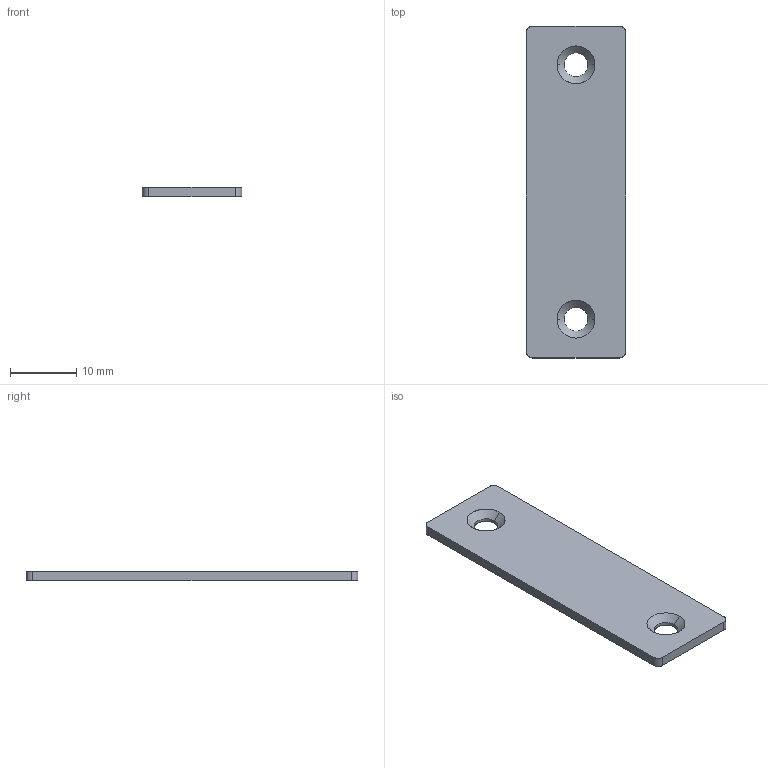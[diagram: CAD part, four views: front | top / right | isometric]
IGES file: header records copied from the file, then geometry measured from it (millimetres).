
Start section: SolidWorks IGES file using analytic representation for surfaces
Global section: file name: 05HD:\由鑫國際內部資料\內部資料\由鑫國際有限公司 TAISAM Corporation\3D IGES\搭扣 Draw Latch\TK-4821\鐵片.IGS; native system: SolidWorks 2008; preprocessor: SolidWorks 2008; author: Administrator; date: 091201.161554; units: millimetre
Bounding box: 15 x 50 x 1.5 mm (x, y, z)
Surface area: 1672.9 mm2 (no closed solid volume)
Topology: 0 solids, 0 shells, 18 faces, 264 edges, 264 vertices
Faces by surface type: revolution 12, bspline 6
